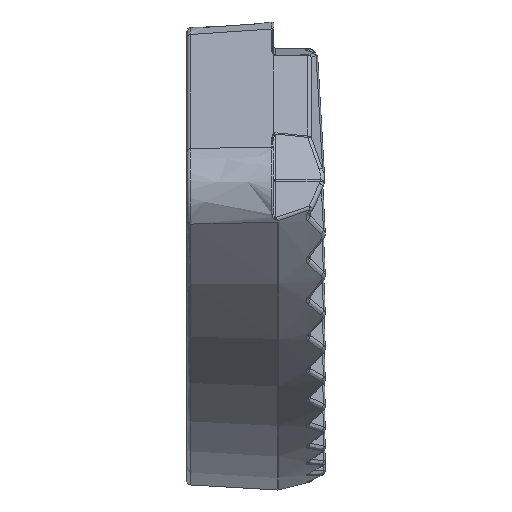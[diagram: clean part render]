
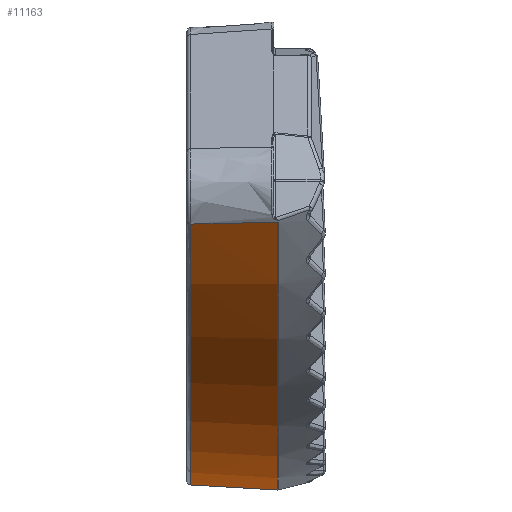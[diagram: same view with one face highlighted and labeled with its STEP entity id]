
A CAD part, left-side view. The second image highlights one B-rep face of the part: STEP entity #11163.
In plain terms, the highlighted conical face has half-angle 3 degrees and reference radius 72.452 mm.
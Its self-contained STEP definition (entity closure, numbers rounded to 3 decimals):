
#1270 = ORIENTED_EDGE ( 'NONE', *, *, #7019, .T. ) ;
#2052 = CONICAL_SURFACE ( 'NONE', #3705, 72.452, 0.052 ) ;
#2162 = EDGE_CURVE ( 'NONE', #14193, #2658, #13325, .T. ) ;
#2658 = VERTEX_POINT ( 'NONE', #12979 ) ;
#3014 = CARTESIAN_POINT ( 'NONE',  ( -58.929, 13.526, -42.193 ) ) ;
#3323 = CARTESIAN_POINT ( 'NONE',  ( -6.589, 5.061, -72.623 ) ) ;
#3705 = AXIS2_PLACEMENT_3D ( 'NONE', #13401, #8444, #16692 ) ;
#3832 = CARTESIAN_POINT ( 'NONE',  ( -59.454, 6.897, -42.056 ) ) ;
#4264 = CARTESIAN_POINT ( 'NONE',  ( -6.674, 6.541, -72.537 ) ) ;
#4755 = CARTESIAN_POINT ( 'NONE',  ( -59.715, 3.582, -41.986 ) ) ;
#4836 = ORIENTED_EDGE ( 'NONE', *, *, #2162, .T. ) ;
#4956 = CARTESIAN_POINT ( 'NONE',  ( -7.076, 13.526, -72.131 ) ) ;
#5233 = FACE_OUTER_BOUND ( 'NONE', #9166, .T. ) ;
#5822 = CARTESIAN_POINT ( 'NONE',  ( -6.504, 3.582, -72.708 ) ) ;
#6479 = B_SPLINE_CURVE_WITH_KNOTS ( 'NONE', 3,
 ( #8769, #3832, #14341, #3014 ),
 .UNSPECIFIED., .F., .F.,
 ( 4, 4 ),
 ( 0., 0.01 ),
 .UNSPECIFIED. ) ;
#7019 = EDGE_CURVE ( 'NONE', #8526, #16463, #6479, .T. ) ;
#8423 = CARTESIAN_POINT ( 'NONE',  ( -58.929, 13.526, -42.193 ) ) ;
#8444 = DIRECTION ( 'NONE',  ( 0., -1., 0. ) ) ;
#8494 = AXIS2_PLACEMENT_3D ( 'NONE', #11734, #11628, #11672 ) ;
#8526 = VERTEX_POINT ( 'NONE', #4755 ) ;
#8769 = CARTESIAN_POINT ( 'NONE',  ( -59.715, 3.582, -41.986 ) ) ;
#9166 = EDGE_LOOP ( 'NONE', ( #1270, #15035, #4836, #15499 ) ) ;
#9835 = AXIS2_PLACEMENT_3D ( 'NONE', #12826, #12841, #12862 ) ;
#10931 = CARTESIAN_POINT ( 'NONE',  ( -6.865, 9.855, -72.345 ) ) ;
#11150 = CARTESIAN_POINT ( 'NONE',  ( -6.759, 8.02, -72.451 ) ) ;
#11163 = ADVANCED_FACE ( 'NONE', ( #5233 ), #2052, .T. ) ;
#11210 = CARTESIAN_POINT ( 'NONE',  ( -7.076, 13.526, -72.131 ) ) ;
#11628 = DIRECTION ( 'NONE',  ( 0., -1., 0. ) ) ;
#11672 = DIRECTION ( 'NONE',  ( 0., 0., -1. ) ) ;
#11734 = CARTESIAN_POINT ( 'NONE',  ( 0., 13.526, 0. ) ) ;
#11954 = CIRCLE ( 'NONE', #9835, 72.998 ) ;
#12760 = CIRCLE ( 'NONE', #8494, 72.477 ) ;
#12826 = CARTESIAN_POINT ( 'NONE',  ( 0., 3.582, 0. ) ) ;
#12841 = DIRECTION ( 'NONE',  ( 0., 1., 0. ) ) ;
#12862 = DIRECTION ( 'NONE',  ( 0., 0., 1. ) ) ;
#12979 = CARTESIAN_POINT ( 'NONE',  ( -6.504, 3.582, -72.708 ) ) ;
#13325 = B_SPLINE_CURVE_WITH_KNOTS ( 'NONE', 3,
 ( #11210, #13960, #10931, #11150, #4264, #3323, #5822 ),
 .UNSPECIFIED., .F., .F.,
 ( 4, 3, 4 ),
 ( 0., 0.006, 0.01 ),
 .UNSPECIFIED. ) ;
#13344 = EDGE_CURVE ( 'NONE', #16463, #14193, #12760, .T. ) ;
#13401 = CARTESIAN_POINT ( 'NONE',  ( 0., 14., 0. ) ) ;
#13960 = CARTESIAN_POINT ( 'NONE',  ( -6.97, 11.691, -72.238 ) ) ;
#14193 = VERTEX_POINT ( 'NONE', #4956 ) ;
#14341 = CARTESIAN_POINT ( 'NONE',  ( -59.192, 10.211, -42.125 ) ) ;
#15035 = ORIENTED_EDGE ( 'NONE', *, *, #13344, .T. ) ;
#15318 = EDGE_CURVE ( 'NONE', #2658, #8526, #11954, .T. ) ;
#15499 = ORIENTED_EDGE ( 'NONE', *, *, #15318, .T. ) ;
#16463 = VERTEX_POINT ( 'NONE', #8423 ) ;
#16692 = DIRECTION ( 'NONE',  ( 0., 0., -1. ) ) ;
